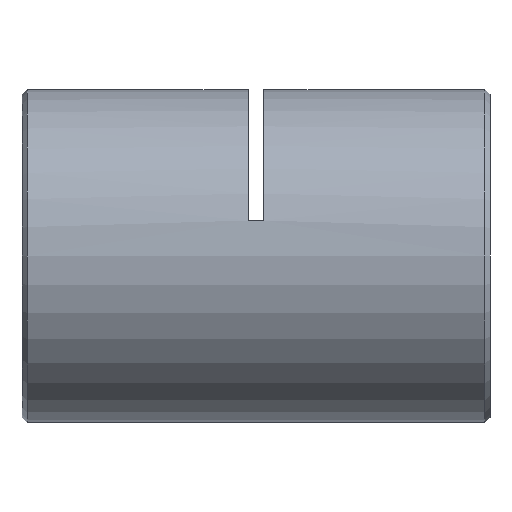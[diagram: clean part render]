
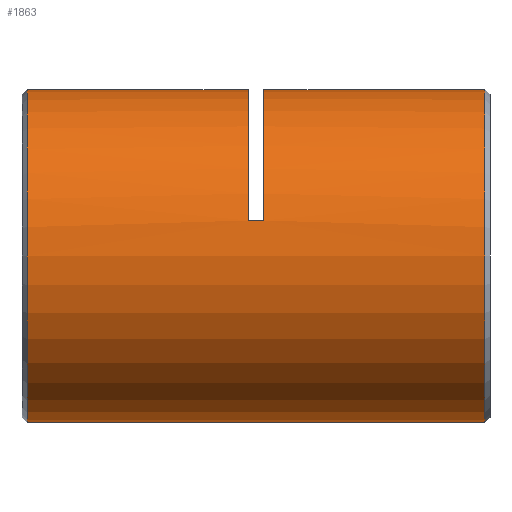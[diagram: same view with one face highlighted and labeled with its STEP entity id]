
A CAD part, left-side view. The second image highlights one B-rep face of the part: STEP entity #1863.
In plain terms, the highlighted cylindrical face has radius 16 mm (diameter 32 mm), a partial arc.
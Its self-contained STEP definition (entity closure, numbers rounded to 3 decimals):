
#85 = CARTESIAN_POINT ( 'NONE',  ( 0., 0., -16. ) ) ;
#186 = EDGE_CURVE ( 'NONE', #5758, #1616, #4058, .T. ) ;
#452 = CIRCLE ( 'NONE', #5605, 16. ) ;
#525 = VERTEX_POINT ( 'NONE', #4876 ) ;
#588 = DIRECTION ( 'NONE',  ( 0., 1., 0. ) ) ;
#737 = CIRCLE ( 'NONE', #2482, 16. ) ;
#945 = VECTOR ( 'NONE', #3072, 1000. ) ;
#953 = EDGE_CURVE ( 'NONE', #525, #5028, #452, .T. ) ;
#1000 = VERTEX_POINT ( 'NONE', #3302 ) ;
#1097 = CARTESIAN_POINT ( 'NONE',  ( 0., 0.75, 16. ) ) ;
#1206 = CARTESIAN_POINT ( 'NONE',  ( 0., 0., 0. ) ) ;
#1365 = CARTESIAN_POINT ( 'NONE',  ( 0., 0., 16. ) ) ;
#1545 = CARTESIAN_POINT ( 'NONE',  ( 0., 0.75, 0. ) ) ;
#1616 = VERTEX_POINT ( 'NONE', #2899 ) ;
#1737 = DIRECTION ( 'NONE',  ( 0., 0., 1. ) ) ;
#1861 = DIRECTION ( 'NONE',  ( 0., 1., 0. ) ) ;
#1863 = ADVANCED_FACE ( 'NONE', ( #5630 ), #4163, .T. ) ;
#1923 = DIRECTION ( 'NONE',  ( 0., 0., 1. ) ) ;
#1929 = CARTESIAN_POINT ( 'NONE',  ( -15.632, 22., 3.413 ) ) ;
#2016 = EDGE_LOOP ( 'NONE', ( #6352, #3699, #4594, #5683, #2110, #3486, #3625, #4588 ) ) ;
#2110 = ORIENTED_EDGE ( 'NONE', *, *, #3495, .T. ) ;
#2113 = VERTEX_POINT ( 'NONE', #1929 ) ;
#2190 = AXIS2_PLACEMENT_3D ( 'NONE', #1206, #5564, #1737 ) ;
#2409 = CARTESIAN_POINT ( 'NONE',  ( 0., 23.5, 0. ) ) ;
#2464 = DIRECTION ( 'NONE',  ( 0., 1., 0. ) ) ;
#2482 = AXIS2_PLACEMENT_3D ( 'NONE', #1545, #588, #2545 ) ;
#2545 = DIRECTION ( 'NONE',  ( 0., 0., 1. ) ) ;
#2565 = CARTESIAN_POINT ( 'NONE',  ( 0., 44.75, 16. ) ) ;
#2588 = CARTESIAN_POINT ( 'NONE',  ( 0., 44.75, 0. ) ) ;
#2610 = EDGE_CURVE ( 'NONE', #2113, #1000, #3892, .T. ) ;
#2639 = AXIS2_PLACEMENT_3D ( 'NONE', #3957, #2464, #3040 ) ;
#2734 = LINE ( 'NONE', #1365, #6098 ) ;
#2899 = CARTESIAN_POINT ( 'NONE',  ( 0., 44.75, -16. ) ) ;
#3040 = DIRECTION ( 'NONE',  ( 0., 0., 1. ) ) ;
#3072 = DIRECTION ( 'NONE',  ( 0., 1., 0. ) ) ;
#3184 = CARTESIAN_POINT ( 'NONE',  ( 0., 0., 16. ) ) ;
#3264 = DIRECTION ( 'NONE',  ( 0., -1., 0. ) ) ;
#3302 = CARTESIAN_POINT ( 'NONE',  ( 0., 22., 16. ) ) ;
#3486 = ORIENTED_EDGE ( 'NONE', *, *, #953, .T. ) ;
#3495 = EDGE_CURVE ( 'NONE', #2113, #525, #4050, .T. ) ;
#3531 = CARTESIAN_POINT ( 'NONE',  ( -15.632, 22.75, 3.413 ) ) ;
#3604 = LINE ( 'NONE', #3184, #5801 ) ;
#3625 = ORIENTED_EDGE ( 'NONE', *, *, #4657, .T. ) ;
#3699 = ORIENTED_EDGE ( 'NONE', *, *, #3997, .T. ) ;
#3872 = DIRECTION ( 'NONE',  ( 0., 1., 0. ) ) ;
#3892 = CIRCLE ( 'NONE', #2639, 16. ) ;
#3957 = CARTESIAN_POINT ( 'NONE',  ( 0., 22., 0. ) ) ;
#3997 = EDGE_CURVE ( 'NONE', #6278, #4382, #737, .T. ) ;
#4050 = LINE ( 'NONE', #3531, #945 ) ;
#4058 = CIRCLE ( 'NONE', #6114, 16. ) ;
#4059 = VECTOR ( 'NONE', #3872, 1000. ) ;
#4163 = CYLINDRICAL_SURFACE ( 'NONE', #2190, 16. ) ;
#4173 = CARTESIAN_POINT ( 'NONE',  ( 0., 23.5, 16. ) ) ;
#4381 = DIRECTION ( 'NONE',  ( 0., 1., 0. ) ) ;
#4382 = VERTEX_POINT ( 'NONE', #1097 ) ;
#4503 = LINE ( 'NONE', #85, #4059 ) ;
#4588 = ORIENTED_EDGE ( 'NONE', *, *, #186, .T. ) ;
#4594 = ORIENTED_EDGE ( 'NONE', *, *, #4741, .T. ) ;
#4657 = EDGE_CURVE ( 'NONE', #5028, #5758, #3604, .T. ) ;
#4741 = EDGE_CURVE ( 'NONE', #4382, #1000, #2734, .T. ) ;
#4876 = CARTESIAN_POINT ( 'NONE',  ( -15.632, 23.5, 3.413 ) ) ;
#5028 = VERTEX_POINT ( 'NONE', #4173 ) ;
#5029 = DIRECTION ( 'NONE',  ( 0., 1., 0. ) ) ;
#5399 = CARTESIAN_POINT ( 'NONE',  ( 0., 0.75, -16. ) ) ;
#5564 = DIRECTION ( 'NONE',  ( 0., 1., 0. ) ) ;
#5605 = AXIS2_PLACEMENT_3D ( 'NONE', #2409, #4381, #1923 ) ;
#5630 = FACE_OUTER_BOUND ( 'NONE', #2016, .T. ) ;
#5632 = EDGE_CURVE ( 'NONE', #6278, #1616, #4503, .T. ) ;
#5683 = ORIENTED_EDGE ( 'NONE', *, *, #2610, .F. ) ;
#5758 = VERTEX_POINT ( 'NONE', #2565 ) ;
#5801 = VECTOR ( 'NONE', #5029, 1000. ) ;
#6023 = DIRECTION ( 'NONE',  ( 0., 0., -1. ) ) ;
#6098 = VECTOR ( 'NONE', #1861, 1000. ) ;
#6114 = AXIS2_PLACEMENT_3D ( 'NONE', #2588, #3264, #6023 ) ;
#6278 = VERTEX_POINT ( 'NONE', #5399 ) ;
#6352 = ORIENTED_EDGE ( 'NONE', *, *, #5632, .F. ) ;
